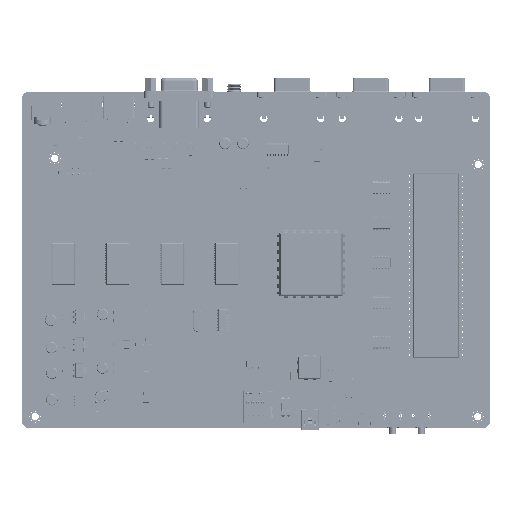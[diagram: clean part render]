
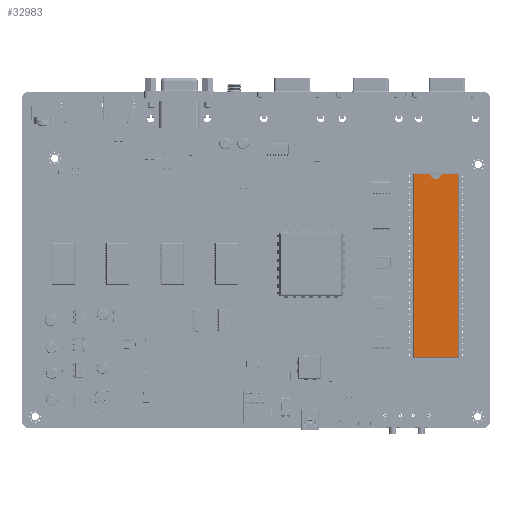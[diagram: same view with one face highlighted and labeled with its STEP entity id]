
A CAD part, top view. The second image highlights one B-rep face of the part: STEP entity #32983.
In plain terms, the highlighted planar face has unit normal (0, 0, 1).
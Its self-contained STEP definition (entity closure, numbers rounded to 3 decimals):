
#32422 = PLANE('',#32423);
#32423 = AXIS2_PLACEMENT_3D('',#32424,#32425,#32426);
#32424 = CARTESIAN_POINT('',(-9.93,-40.768,4.513));
#32425 = DIRECTION('',(0.982,0.,
    -0.188));
#32426 = DIRECTION('',(0.,1.,0.));
#32508 = PLANE('',#32509);
#32509 = AXIS2_PLACEMENT_3D('',#32510,#32511,#32512);
#32510 = CARTESIAN_POINT('',(-10.185,-40.513,4.513));
#32511 = DIRECTION('',(0.,0.982,-0.188
    ));
#32512 = DIRECTION('',(-1.,0.,0.));
#32605 = VERTEX_POINT('',#32606);
#32606 = CARTESIAN_POINT('',(-9.676,-40.258,5.84));
#32629 = VERTEX_POINT('',#32630);
#32630 = CARTESIAN_POINT('',(-9.676,40.258,5.84));
#32644 = PLANE('',#32645);
#32645 = AXIS2_PLACEMENT_3D('',#32646,#32647,#32648);
#32646 = CARTESIAN_POINT('',(-10.185,40.513,4.513));
#32647 = DIRECTION('',(0.,0.982,0.188
    ));
#32648 = DIRECTION('',(-1.,0.,0.));
#32656 = EDGE_CURVE('',#32605,#32629,#32657,.T.);
#32657 = SURFACE_CURVE('',#32658,(#32662,#32669),.PCURVE_S1.);
#32658 = LINE('',#32659,#32660);
#32659 = CARTESIAN_POINT('',(-9.676,-40.768,5.84));
#32660 = VECTOR('',#32661,1.);
#32661 = DIRECTION('',(0.,1.,0.));
#32662 = PCURVE('',#32422,#32663);
#32663 = DEFINITIONAL_REPRESENTATION('',(#32664),#32668);
#32664 = LINE('',#32665,#32666);
#32665 = CARTESIAN_POINT('',(0.,1.352));
#32666 = VECTOR('',#32667,1.);
#32667 = DIRECTION('',(1.,0.));
#32668 = ( GEOMETRIC_REPRESENTATION_CONTEXT(2) 
PARAMETRIC_REPRESENTATION_CONTEXT() REPRESENTATION_CONTEXT('2D SPACE',''
  ) );
#32669 = PCURVE('',#32670,#32675);
#32670 = PLANE('',#32671);
#32671 = AXIS2_PLACEMENT_3D('',#32672,#32673,#32674);
#32672 = CARTESIAN_POINT('',(-10.185,-40.768,5.84));
#32673 = DIRECTION('',(0.,0.,1.));
#32674 = DIRECTION('',(1.,0.,0.));
#32675 = DEFINITIONAL_REPRESENTATION('',(#32676),#32680);
#32676 = LINE('',#32677,#32678);
#32677 = CARTESIAN_POINT('',(0.509,0.));
#32678 = VECTOR('',#32679,1.);
#32679 = DIRECTION('',(0.,1.));
#32680 = ( GEOMETRIC_REPRESENTATION_CONTEXT(2) 
PARAMETRIC_REPRESENTATION_CONTEXT() REPRESENTATION_CONTEXT('2D SPACE',''
  ) );
#32798 = PLANE('',#32799);
#32799 = AXIS2_PLACEMENT_3D('',#32800,#32801,#32802);
#32800 = CARTESIAN_POINT('',(9.93,-40.768,4.513));
#32801 = DIRECTION('',(0.982,0.,0.188)
  );
#32802 = DIRECTION('',(0.,1.,0.));
#32862 = EDGE_CURVE('',#32605,#32863,#32865,.T.);
#32863 = VERTEX_POINT('',#32864);
#32864 = CARTESIAN_POINT('',(9.676,-40.258,5.84));
#32865 = SURFACE_CURVE('',#32866,(#32870,#32877),.PCURVE_S1.);
#32866 = LINE('',#32867,#32868);
#32867 = CARTESIAN_POINT('',(-10.185,-40.258,5.84));
#32868 = VECTOR('',#32869,1.);
#32869 = DIRECTION('',(1.,0.,0.));
#32870 = PCURVE('',#32508,#32871);
#32871 = DEFINITIONAL_REPRESENTATION('',(#32872),#32876);
#32872 = LINE('',#32873,#32874);
#32873 = CARTESIAN_POINT('',(0.,1.352));
#32874 = VECTOR('',#32875,1.);
#32875 = DIRECTION('',(-1.,0.));
#32876 = ( GEOMETRIC_REPRESENTATION_CONTEXT(2) 
PARAMETRIC_REPRESENTATION_CONTEXT() REPRESENTATION_CONTEXT('2D SPACE',''
  ) );
#32877 = PCURVE('',#32670,#32878);
#32878 = DEFINITIONAL_REPRESENTATION('',(#32879),#32883);
#32879 = LINE('',#32880,#32881);
#32880 = CARTESIAN_POINT('',(0.,0.509));
#32881 = VECTOR('',#32882,1.);
#32882 = DIRECTION('',(1.,0.));
#32883 = ( GEOMETRIC_REPRESENTATION_CONTEXT(2) 
PARAMETRIC_REPRESENTATION_CONTEXT() REPRESENTATION_CONTEXT('2D SPACE',''
  ) );
#32983 = ADVANCED_FACE('',(#32984),#32670,.T.);
#32984 = FACE_BOUND('',#32985,.T.);
#32985 = EDGE_LOOP('',(#32986,#32987,#32988,#33011,#33034,#33063));
#32986 = ORIENTED_EDGE('',*,*,#32656,.F.);
#32987 = ORIENTED_EDGE('',*,*,#32862,.T.);
#32988 = ORIENTED_EDGE('',*,*,#32989,.T.);
#32989 = EDGE_CURVE('',#32863,#32990,#32992,.T.);
#32990 = VERTEX_POINT('',#32991);
#32991 = CARTESIAN_POINT('',(9.676,40.258,5.84));
#32992 = SURFACE_CURVE('',#32993,(#32997,#33004),.PCURVE_S1.);
#32993 = LINE('',#32994,#32995);
#32994 = CARTESIAN_POINT('',(9.676,-40.768,5.84));
#32995 = VECTOR('',#32996,1.);
#32996 = DIRECTION('',(0.,1.,0.));
#32997 = PCURVE('',#32670,#32998);
#32998 = DEFINITIONAL_REPRESENTATION('',(#32999),#33003);
#32999 = LINE('',#33000,#33001);
#33000 = CARTESIAN_POINT('',(19.861,0.));
#33001 = VECTOR('',#33002,1.);
#33002 = DIRECTION('',(0.,1.));
#33003 = ( GEOMETRIC_REPRESENTATION_CONTEXT(2) 
PARAMETRIC_REPRESENTATION_CONTEXT() REPRESENTATION_CONTEXT('2D SPACE',''
  ) );
#33004 = PCURVE('',#32798,#33005);
#33005 = DEFINITIONAL_REPRESENTATION('',(#33006),#33010);
#33006 = LINE('',#33007,#33008);
#33007 = CARTESIAN_POINT('',(0.,1.352));
#33008 = VECTOR('',#33009,1.);
#33009 = DIRECTION('',(1.,0.));
#33010 = ( GEOMETRIC_REPRESENTATION_CONTEXT(2) 
PARAMETRIC_REPRESENTATION_CONTEXT() REPRESENTATION_CONTEXT('2D SPACE',''
  ) );
#33011 = ORIENTED_EDGE('',*,*,#33012,.F.);
#33012 = EDGE_CURVE('',#33013,#32990,#33015,.T.);
#33013 = VERTEX_POINT('',#33014);
#33014 = CARTESIAN_POINT('',(2.495,40.258,5.84));
#33015 = SURFACE_CURVE('',#33016,(#33020,#33027),.PCURVE_S1.);
#33016 = LINE('',#33017,#33018);
#33017 = CARTESIAN_POINT('',(-10.185,40.258,5.84));
#33018 = VECTOR('',#33019,1.);
#33019 = DIRECTION('',(1.,0.,0.));
#33020 = PCURVE('',#32670,#33021);
#33021 = DEFINITIONAL_REPRESENTATION('',(#33022),#33026);
#33022 = LINE('',#33023,#33024);
#33023 = CARTESIAN_POINT('',(0.,81.026));
#33024 = VECTOR('',#33025,1.);
#33025 = DIRECTION('',(1.,0.));
#33026 = ( GEOMETRIC_REPRESENTATION_CONTEXT(2) 
PARAMETRIC_REPRESENTATION_CONTEXT() REPRESENTATION_CONTEXT('2D SPACE',''
  ) );
#33027 = PCURVE('',#32644,#33028);
#33028 = DEFINITIONAL_REPRESENTATION('',(#33029),#33033);
#33029 = LINE('',#33030,#33031);
#33030 = CARTESIAN_POINT('',(0.,1.352));
#33031 = VECTOR('',#33032,1.);
#33032 = DIRECTION('',(-1.,0.));
#33033 = ( GEOMETRIC_REPRESENTATION_CONTEXT(2) 
PARAMETRIC_REPRESENTATION_CONTEXT() REPRESENTATION_CONTEXT('2D SPACE',''
  ) );
#33034 = ORIENTED_EDGE('',*,*,#33035,.F.);
#33035 = EDGE_CURVE('',#33036,#33013,#33038,.T.);
#33036 = VERTEX_POINT('',#33037);
#33037 = CARTESIAN_POINT('',(-2.495,40.258,5.84));
#33038 = SURFACE_CURVE('',#33039,(#33044,#33051),.PCURVE_S1.);
#33039 = CIRCLE('',#33040,2.546);
#33040 = AXIS2_PLACEMENT_3D('',#33041,#33042,#33043);
#33041 = CARTESIAN_POINT('',(0.,40.768,5.84));
#33042 = DIRECTION('',(0.,0.,1.));
#33043 = DIRECTION('',(1.,0.,0.));
#33044 = PCURVE('',#32670,#33045);
#33045 = DEFINITIONAL_REPRESENTATION('',(#33046),#33050);
#33046 = CIRCLE('',#33047,2.546);
#33047 = AXIS2_PLACEMENT_2D('',#33048,#33049);
#33048 = CARTESIAN_POINT('',(10.185,81.535));
#33049 = DIRECTION('',(1.,0.));
#33050 = ( GEOMETRIC_REPRESENTATION_CONTEXT(2) 
PARAMETRIC_REPRESENTATION_CONTEXT() REPRESENTATION_CONTEXT('2D SPACE',''
  ) );
#33051 = PCURVE('',#33052,#33057);
#33052 = CYLINDRICAL_SURFACE('',#33053,2.546);
#33053 = AXIS2_PLACEMENT_3D('',#33054,#33055,#33056);
#33054 = CARTESIAN_POINT('',(0.,40.768,5.256));
#33055 = DIRECTION('',(0.,0.,1.));
#33056 = DIRECTION('',(1.,0.,0.));
#33057 = DEFINITIONAL_REPRESENTATION('',(#33058),#33062);
#33058 = LINE('',#33059,#33060);
#33059 = CARTESIAN_POINT('',(0.,0.584));
#33060 = VECTOR('',#33061,1.);
#33061 = DIRECTION('',(1.,0.));
#33062 = ( GEOMETRIC_REPRESENTATION_CONTEXT(2) 
PARAMETRIC_REPRESENTATION_CONTEXT() REPRESENTATION_CONTEXT('2D SPACE',''
  ) );
#33063 = ORIENTED_EDGE('',*,*,#33064,.F.);
#33064 = EDGE_CURVE('',#32629,#33036,#33065,.T.);
#33065 = SURFACE_CURVE('',#33066,(#33070,#33077),.PCURVE_S1.);
#33066 = LINE('',#33067,#33068);
#33067 = CARTESIAN_POINT('',(-10.185,40.258,5.84));
#33068 = VECTOR('',#33069,1.);
#33069 = DIRECTION('',(1.,0.,0.));
#33070 = PCURVE('',#32670,#33071);
#33071 = DEFINITIONAL_REPRESENTATION('',(#33072),#33076);
#33072 = LINE('',#33073,#33074);
#33073 = CARTESIAN_POINT('',(0.,81.026));
#33074 = VECTOR('',#33075,1.);
#33075 = DIRECTION('',(1.,0.));
#33076 = ( GEOMETRIC_REPRESENTATION_CONTEXT(2) 
PARAMETRIC_REPRESENTATION_CONTEXT() REPRESENTATION_CONTEXT('2D SPACE',''
  ) );
#33077 = PCURVE('',#32644,#33078);
#33078 = DEFINITIONAL_REPRESENTATION('',(#33079),#33083);
#33079 = LINE('',#33080,#33081);
#33080 = CARTESIAN_POINT('',(0.,1.352));
#33081 = VECTOR('',#33082,1.);
#33082 = DIRECTION('',(-1.,0.));
#33083 = ( GEOMETRIC_REPRESENTATION_CONTEXT(2) 
PARAMETRIC_REPRESENTATION_CONTEXT() REPRESENTATION_CONTEXT('2D SPACE',''
  ) );
